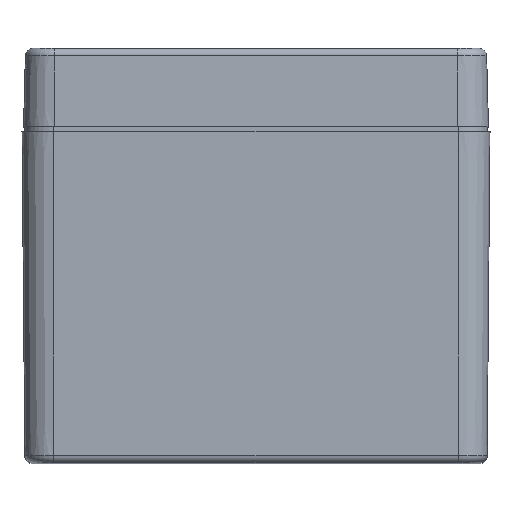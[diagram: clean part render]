
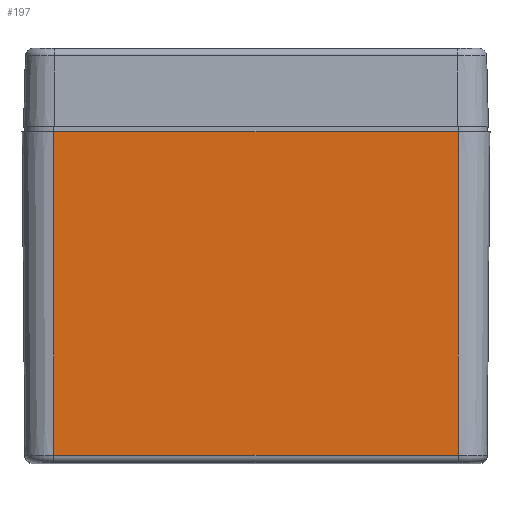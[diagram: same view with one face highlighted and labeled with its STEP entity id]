
A CAD part, top view. The second image highlights one B-rep face of the part: STEP entity #197.
In plain terms, the highlighted planar face has unit normal (0, -0.009, 1).
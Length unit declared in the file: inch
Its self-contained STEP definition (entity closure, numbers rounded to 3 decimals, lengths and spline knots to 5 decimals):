
#197 = ADVANCED_FACE ( 'NONE', ( #22002 ), #974, .T. ) ;
#974 = PLANE ( 'NONE',  #17850 ) ;
#1301 = CARTESIAN_POINT ( 'NONE',  ( 0., 0., 2.274 ) ) ;
#1387 = LINE ( 'NONE', #7771, #14365 ) ;
#1423 = CARTESIAN_POINT ( 'NONE',  ( 1.54, 0., 2.274 ) ) ;
#1494 = ORIENTED_EDGE ( 'NONE', *, *, #19445, .F. ) ;
#1676 = VECTOR ( 'NONE', #23250, 39.37008 ) ;
#3044 = DIRECTION ( 'NONE',  ( 0., -0.009, 1. ) ) ;
#3859 = DIRECTION ( 'NONE',  ( 1., 0., 0. ) ) ;
#3934 = EDGE_CURVE ( 'NONE', #11123, #4715, #7534, .T. ) ;
#4715 = VERTEX_POINT ( 'NONE', #1423 ) ;
#4879 = CARTESIAN_POINT ( 'NONE',  ( -1.54, 0., 2.274 ) ) ;
#6476 = VERTEX_POINT ( 'NONE', #12109 ) ;
#6521 = DIRECTION ( 'NONE',  ( 0., -1., -0.009 ) ) ;
#7534 = LINE ( 'NONE', #15124, #21433 ) ;
#7614 = LINE ( 'NONE', #4879, #1676 ) ;
#7771 = CARTESIAN_POINT ( 'NONE',  ( 1.54, 0., 2.274 ) ) ;
#8157 = ORIENTED_EDGE ( 'NONE', *, *, #21786, .T. ) ;
#9643 = EDGE_CURVE ( 'NONE', #6476, #4715, #1387, .T. ) ;
#11123 = VERTEX_POINT ( 'NONE', #15963 ) ;
#11214 = ORIENTED_EDGE ( 'NONE', *, *, #3934, .F. ) ;
#11264 = DIRECTION ( 'NONE',  ( 1., 0., 0. ) ) ;
#12109 = CARTESIAN_POINT ( 'NONE',  ( 1.54, -2.46146, 2.25252 ) ) ;
#12610 = ORIENTED_EDGE ( 'NONE', *, *, #9643, .T. ) ;
#14365 = VECTOR ( 'NONE', #22287, 39.37008 ) ;
#15124 = CARTESIAN_POINT ( 'NONE',  ( -1.54, 0., 2.274 ) ) ;
#15581 = VECTOR ( 'NONE', #3859, 39.37008 ) ;
#15963 = CARTESIAN_POINT ( 'NONE',  ( -1.54, 0., 2.274 ) ) ;
#16380 = CARTESIAN_POINT ( 'NONE',  ( -1.54, -2.46146, 2.25252 ) ) ;
#16409 = CARTESIAN_POINT ( 'NONE',  ( 1.54, -2.46146, 2.25252 ) ) ;
#17850 = AXIS2_PLACEMENT_3D ( 'NONE', #1301, #3044, #6521 ) ;
#17882 = LINE ( 'NONE', #16409, #15581 ) ;
#19445 = EDGE_CURVE ( 'NONE', #19551, #11123, #7614, .T. ) ;
#19551 = VERTEX_POINT ( 'NONE', #16380 ) ;
#21433 = VECTOR ( 'NONE', #11264, 39.37008 ) ;
#21676 = EDGE_LOOP ( 'NONE', ( #1494, #8157, #12610, #11214 ) ) ;
#21786 = EDGE_CURVE ( 'NONE', #19551, #6476, #17882, .T. ) ;
#22002 = FACE_OUTER_BOUND ( 'NONE', #21676, .T. ) ;
#22287 = DIRECTION ( 'NONE',  ( 0., 1., 0.009 ) ) ;
#23250 = DIRECTION ( 'NONE',  ( 0., 1., 0.009 ) ) ;
